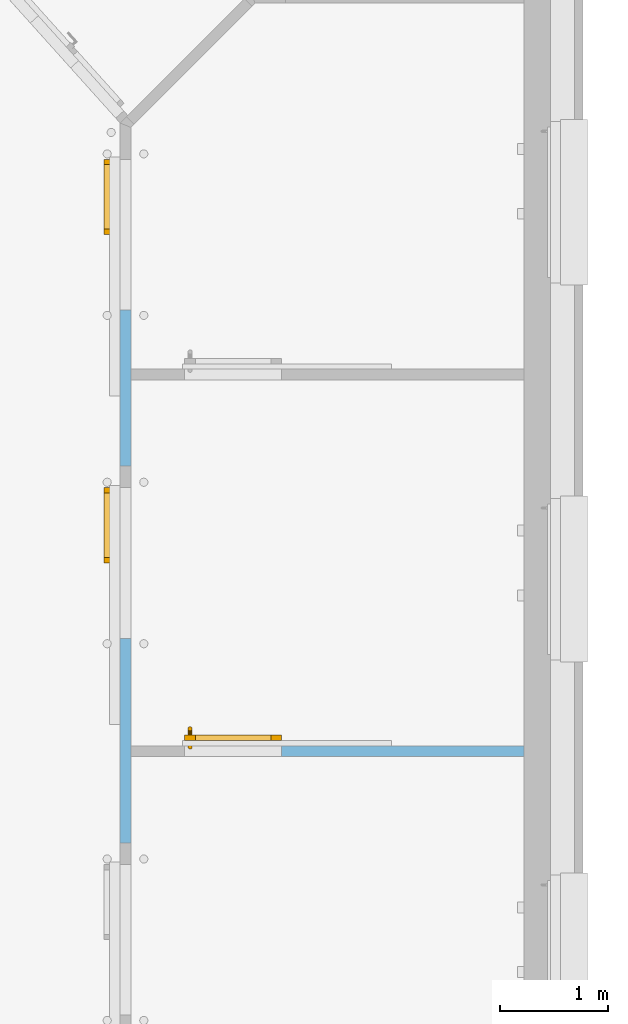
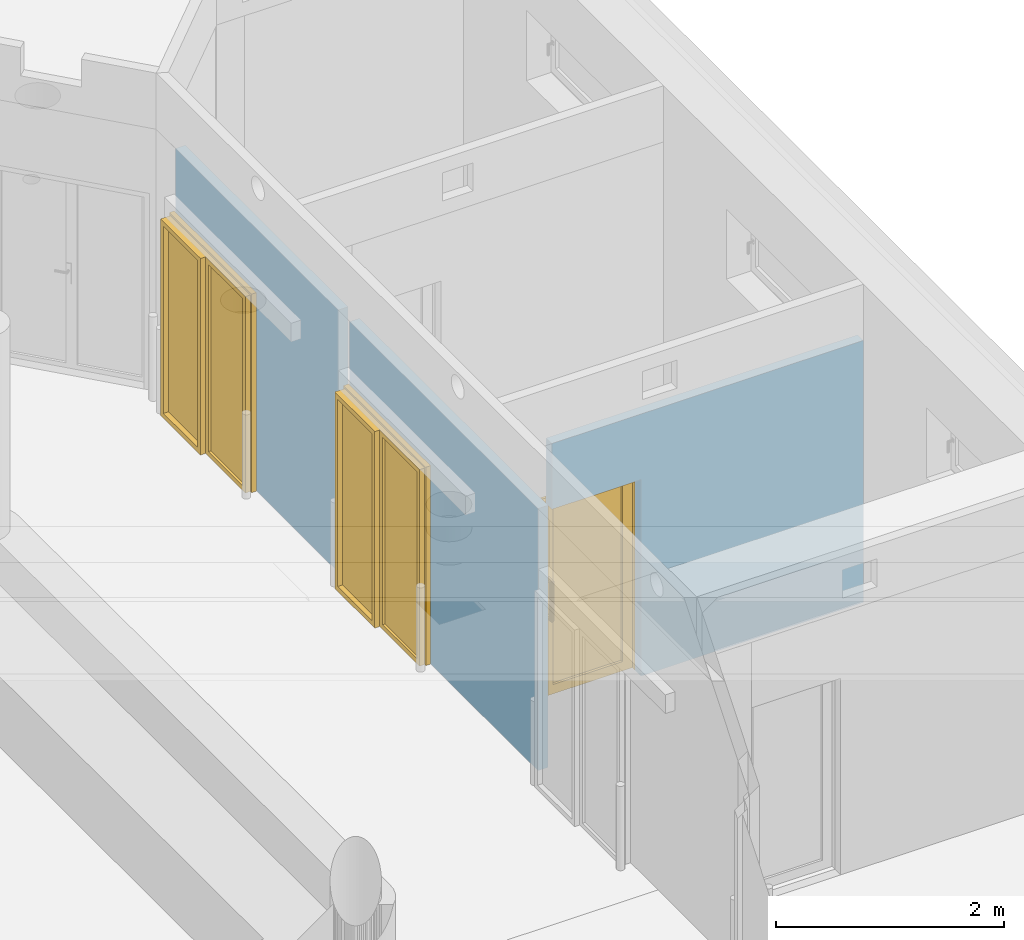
# One storey, part 115 of 140: 3 doors, 3 openings, plus 3 elements that do not belong to this part.
"""IFC4 building model written with IfcOpenShell, lengths in metres."""

import ifcopenshell
import ifcopenshell.guid

model = None  # the IFC model being written
_history = None  # IfcOwnerHistory: only IFC2X3 demands one
_inside = {}  # id of a spatial element -> (the spatial element, [elements in it])
_under = {}  # id of a project, library or spatial element -> (it, [spatial elements below it])
_declared = {}  # id of a project -> (the project, [libraries it declares])
_typed = {}  # id of a type object -> (the type object, [elements of that type])
_made_of = {}  # id of a material, layer set ... -> (it, [elements and type objects made of it])


def new_model(schema):
    """Start an empty IFC model of exactly this schema.

    Asked for "IFC4X3", IfcOpenShell would pick the latest addendum, in which some entities
    have other attributes; the version numbers below select the first issue.
    IFC2X3 requires an IfcOwnerHistory on every rooted entity: one is made here for all.
    """
    global model, _history
    if schema == "IFC4X3":
        model = ifcopenshell.file(schema_version=(4, 3, 0, 0))
    else:
        model = ifcopenshell.file(schema=schema)
    _inside.clear()
    _under.clear()
    _declared.clear()
    _typed.clear()
    _made_of.clear()
    _history = None
    if model.schema == "IFC2X3":
        org = make("IfcOrganization", Name="unknown")
        user = make(
            "IfcPersonAndOrganization",
            ThePerson=make("IfcPerson", FamilyName="unknown"),
            TheOrganization=org,
        )
        app = make(
            "IfcApplication",
            ApplicationDeveloper=org,
            Version="unknown",
            ApplicationFullName="unknown",
            ApplicationIdentifier="unknown",
        )
        _history = make(
            "IfcOwnerHistory",
            OwningUser=user,
            OwningApplication=app,
            ChangeAction="ADDED",
            CreationDate=0,
        )
    return model


def make(cls, **values):
    """One entity of the class cls with the attributes given. An attribute that is None is left unset."""
    return model.create_entity(
        cls, **{name: value for name, value in values.items() if value is not None}
    )


def entity(cls, *values):
    """Any entity or typed value of the class cls, its attributes in the order of the schema. None: left unset."""
    e = model.create_entity(cls)
    for i, value in enumerate(values):
        if value is not None:
            e[i] = value
    return e


def rooted(cls, **values):
    """An entity with a GlobalId (a new one), such as an element, a storey or a relation."""
    return make(cls, GlobalId=ifcopenshell.guid.new(), OwnerHistory=_history, **values)


def si_unit(unit_type, name, prefix=None):
    """IfcSIUnit, for example si_unit("LENGTHUNIT", "METRE", prefix="MILLI")."""
    return make("IfcSIUnit", UnitType=unit_type, Prefix=prefix, Name=name)


def converted_unit(unit_type, name, factor, base, dimensions=None, offset=None):
    """IfcConversionBasedUnit, such as the inch: factor (a typed value) times the base unit."""
    return make(
        "IfcConversionBasedUnit"
        if offset is None
        else "IfcConversionBasedUnitWithOffset",
        ConversionOffset=offset,
        Dimensions=None
        if dimensions is None
        else entity("IfcDimensionalExponents", *dimensions),
        UnitType=unit_type,
        Name=name,
        ConversionFactor=make(
            "IfcMeasureWithUnit", ValueComponent=factor, UnitComponent=base
        ),
    )


def derived_unit(unit_type, elements):
    """IfcDerivedUnit: a product of units, each with its exponent."""
    return make(
        "IfcDerivedUnit",
        Elements=[
            make("IfcDerivedUnitElement", Unit=unit, Exponent=power)
            for unit, power in elements
        ],
        UnitType=unit_type,
    )


def assignment(units):
    """IfcUnitAssignment: the units of a project."""
    return None if units is None else make("IfcUnitAssignment", Units=units)


def point(xyz):
    """IfcCartesianPoint."""
    return None if xyz is None else make("IfcCartesianPoint", Coordinates=xyz)


def direction(xyz):
    """IfcDirection."""
    return None if xyz is None else make("IfcDirection", DirectionRatios=xyz)


def frame(location, z_axis=None, x_axis=None):
    """IfcAxis2Placement3D, a coordinate frame: its origin and axes. An axis left out is left unset."""
    return make(
        "IfcAxis2Placement3D",
        Location=point(location),
        Axis=direction(z_axis),
        RefDirection=direction(x_axis),
    )


def frame_2d(location, x_axis=None):
    """IfcAxis2Placement2D, a coordinate frame in the plane: its origin and x axis."""
    return make(
        "IfcAxis2Placement2D", Location=point(location), RefDirection=direction(x_axis)
    )


def origin():
    """The frame at (0, 0, 0) with its axes left unset."""
    return frame((0.0, 0.0, 0.0))


def origin_with_axes():
    """The frame at (0, 0, 0) with the z axis (0, 0, 1) and the x axis (1, 0, 0) written out."""
    return frame((0.0, 0.0, 0.0), z_axis=(0.0, 0.0, 1.0), x_axis=(1.0, 0.0, 0.0))


def place(relative_to, where):
    """IfcLocalPlacement: puts the frame where relative to a parent placement (None: the world)."""
    return make(
        "IfcLocalPlacement", PlacementRelTo=relative_to, RelativePlacement=where
    )


def context(
    kind, dimensions, precision=None, world=None, true_north=None, identifier=None
):
    """IfcGeometricRepresentationContext, for example the 3D "Model" context."""
    return make(
        "IfcGeometricRepresentationContext",
        ContextIdentifier=identifier,
        ContextType=kind,
        CoordinateSpaceDimension=dimensions,
        Precision=precision,
        WorldCoordinateSystem=world,
        TrueNorth=true_north,
    )


def subcontext(parent, identifier, kind, view, scale=None):
    """IfcGeometricRepresentationSubContext, for example "Body" below "Model"."""
    return make(
        "IfcGeometricRepresentationSubContext",
        ContextIdentifier=identifier,
        ContextType=kind,
        ParentContext=parent,
        TargetScale=scale,
        TargetView=view,
    )


def project(units=None, contexts=None):
    """IfcProject with its units and contexts."""
    return rooted(
        "IfcProject",
        Name="project",
        RepresentationContexts=contexts,
        UnitsInContext=assignment(units),
    )


def spatial(cls, under=None, at=None, **own):
    """A site, building, storey or space (cls), placed at a placement, below another one or the project."""
    s = rooted(cls, ObjectPlacement=at, **own)
    if under is not None:
        _under.setdefault(under.id(), (under, []))[1].append(s)
    return s


def polyline(points):
    """IfcPolyline through the points."""
    return make("IfcPolyline", Points=[point(p) for p in points])


def profile(cls, at=None, kind="AREA", **sizes):
    """A parametric profile (cls). Its sizes go by their IFC names, for example OverallWidth=200.0."""
    return make(cls, ProfileType=kind, Position=at, **sizes)


def rectangle(**sizes):
    """IfcRectangleProfileDef."""
    return profile("IfcRectangleProfileDef", **sizes)


def outline(outer, holes=None, kind="AREA"):
    """IfcArbitraryClosedProfileDef: a profile drawn as a closed curve; with holes, ...WithVoids."""
    if holes is None:
        return make("IfcArbitraryClosedProfileDef", ProfileType=kind, OuterCurve=outer)
    return make(
        "IfcArbitraryProfileDefWithVoids",
        ProfileType=kind,
        OuterCurve=outer,
        InnerCurves=holes,
    )


def extrude(swept, where, along, depth):
    """IfcExtrudedAreaSolid: the profile swept, set in the frame where, extruded along a direction by depth."""
    return make(
        "IfcExtrudedAreaSolid",
        SweptArea=swept,
        Position=where,
        ExtrudedDirection=direction(along),
        Depth=depth,
    )


def faces_of(points, faces, orient=None, outer=None):
    """IfcFace entities. A face is a list of loops; a loop is a list of indices into points, from 0.

    orient and outer hold one flag for each loop. By default every Orientation is true, the
    first loop of a face is its IfcFaceOuterBound and the others are IfcFaceBound.
    """
    made = []
    for i, loops in enumerate(faces):
        bounds = []
        for j, loop in enumerate(loops):
            is_outer = j == 0 if outer is None else outer[i][j]
            bounds.append(
                make(
                    "IfcFaceOuterBound" if is_outer else "IfcFaceBound",
                    Bound=make("IfcPolyLoop", Polygon=[points[k] for k in loop]),
                    Orientation=True if orient is None else orient[i][j],
                )
            )
        made.append(make("IfcFace", Bounds=bounds))
    return made


def closed_shell(faces, orient=None, outer=None):
    """The faces of one IfcClosedShell. faceted_brep and surface_model build it on their shared points."""
    return ("IfcClosedShell", faces, orient, outer)


def open_shell(faces, orient=None, outer=None):
    """The faces of one IfcOpenShell. surface_model builds it on its shared points."""
    return ("IfcOpenShell", faces, orient, outer)


def surface_model(cls, points, shells):
    """IfcFaceBasedSurfaceModel or IfcShellBasedSurfaceModel (cls): surfaces that need not close."""
    shared = [point(p) for p in points]
    made = [make(c, CfsFaces=faces_of(shared, fs, o, b)) for c, fs, o, b in shells]
    if cls == "IfcFaceBasedSurfaceModel":
        return make(cls, FbsmFaces=made)
    return make(cls, SbsmBoundary=made)


def shape(context_of_items, identifier, shape_type, items):
    """IfcShapeRepresentation: the items that make up one representation, for example the "Body"."""
    return make(
        "IfcShapeRepresentation",
        ContextOfItems=context_of_items,
        RepresentationIdentifier=identifier,
        RepresentationType=shape_type,
        Items=items,
    )


def source(mapping_origin, context_of_items, identifier, shape_type, items):
    """IfcRepresentationMap: a shape defined once, which mapped items show again and again."""
    return make(
        "IfcRepresentationMap",
        MappingOrigin=mapping_origin,
        MappedRepresentation=shape(context_of_items, identifier, shape_type, items),
    )


def transform(
    local_origin,
    x_axis=None,
    y_axis=None,
    z_axis=None,
    scale=None,
    scale2=None,
    scale3=None,
    uniform=True,
):
    """IfcCartesianTransformationOperator3D, or its non-uniform kind. x_axis, y_axis, z_axis: its Axis1, 2, 3."""
    if uniform:
        return make(
            "IfcCartesianTransformationOperator3D",
            Axis1=direction(x_axis),
            Axis2=direction(y_axis),
            LocalOrigin=point(local_origin),
            Scale=scale,
            Axis3=direction(z_axis),
        )
    return make(
        "IfcCartesianTransformationOperator3DnonUniform",
        Axis1=direction(x_axis),
        Axis2=direction(y_axis),
        LocalOrigin=point(local_origin),
        Scale=scale,
        Axis3=direction(z_axis),
        Scale2=scale2,
        Scale3=scale3,
    )


def mapped(mapping_source, mapping_target):
    """IfcMappedItem: shows the shape of a source again, moved by a transform."""
    return make(
        "IfcMappedItem", MappingSource=mapping_source, MappingTarget=mapping_target
    )


def material(Name=None, Category=None):
    """IfcMaterial."""
    return make("IfcMaterial", Name=Name, Category=Category)


def layer(
    of_material, thickness, ventilated=None, Name=None, Category=None, Priority=None
):
    """IfcMaterialLayer: one layer of a wall or slab, of a material (None: an air gap)."""
    return make(
        "IfcMaterialLayer",
        Material=of_material,
        LayerThickness=thickness,
        IsVentilated=ventilated,
        Name=Name,
        Category=Category,
        Priority=Priority,
    )


def layer_set(layers, Name=None):
    """IfcMaterialLayerSet."""
    return make("IfcMaterialLayerSet", MaterialLayers=layers, LayerSetName=Name)


def layer_usage(for_layer_set, set_direction, sense, offset, extent=None):
    """IfcMaterialLayerSetUsage: how a layer set lies in its element."""
    return make(
        "IfcMaterialLayerSetUsage",
        ForLayerSet=for_layer_set,
        LayerSetDirection=set_direction,
        DirectionSense=sense,
        OffsetFromReferenceLine=offset,
        ReferenceExtent=extent,
    )


def made_of(thing, what):
    """Note that an element or type object is made of a material, layer set ...; save() writes the relation."""
    if what is not None:
        _made_of.setdefault(what.id(), (what, []))[1].append(thing)
    return thing


def type_object(cls, material=None, **own):
    """A type object (cls), such as IfcWallType, which elements share."""
    return made_of(rooted(cls, **own), material)


def element(
    cls,
    number,
    at=None,
    inside=None,
    cuts=None,
    type_object=None,
    material=None,
    context=None,
    identifier="Body",
    shape_type=None,
    held_by="IfcProductDefinitionShape",
    body=None,
    shapes=None,
    **own,
):
    """One element of the class cls, such as IfcWall. Its Tag is "e" and its number.

    at: its placement. inside: the storey or other place that contains it. cuts: it is an
    opening in that element (IfcRelVoidsElement). A single representation is given by context,
    identifier, shape_type and body (its items); several are given by shapes. held_by: the class
    of the entity that holds the representations. save() writes the other relations.
    """
    e = rooted(cls, Tag="e%d" % number, ObjectPlacement=at, **own)
    if body is not None:
        shapes = [shape(context, identifier, shape_type, body)]
    if shapes is not None:
        e.Representation = make(held_by, Representations=shapes)
    if inside is not None:
        _inside.setdefault(inside.id(), (inside, []))[1].append(e)
    if cuts is not None:
        rooted(
            "IfcRelVoidsElement", RelatingBuildingElement=cuts, RelatedOpeningElement=e
        )
    if type_object is not None:
        _typed.setdefault(type_object.id(), (type_object, []))[1].append(e)
    return made_of(e, material)


def fill(opening, filler):
    """IfcRelFillsElement: the door or window that sits in an opening."""
    return rooted(
        "IfcRelFillsElement",
        RelatingOpeningElement=opening,
        RelatedBuildingElement=filler,
    )


def aggregate(whole, parts):
    """IfcRelAggregates: a whole, such as a stair, and the parts it consists of."""
    return rooted("IfcRelAggregates", RelatingObject=whole, RelatedObjects=parts)


def save(model, path):
    """Write the relations noted so far, then the file.

    IfcRelAggregates (storeys below a building ...), IfcRelContainedInSpatialStructure (elements
    in a storey), IfcRelDefinesByType, IfcRelAssociatesMaterial and IfcRelDeclares: one each for
    every whole, place, type object, material and project.
    """
    for whole, parts in _under.values():
        aggregate(whole, parts)
    for where, things in _inside.values():
        rooted(
            "IfcRelContainedInSpatialStructure",
            RelatedElements=things,
            RelatingStructure=where,
        )
    for kind, things in _typed.values():
        rooted("IfcRelDefinesByType", RelatedObjects=things, RelatingType=kind)
    for what, things in _made_of.values():
        rooted("IfcRelAssociatesMaterial", RelatedObjects=things, RelatingMaterial=what)
    for by, libraries in _declared.values():
        rooted("IfcRelDeclares", RelatingContext=by, RelatedDefinitions=libraries)
    model.write(path)


model = new_model("IFC4")

# Units and contexts
model_context = context("Model", 3, precision=1e-05, world=origin())
body_context = subcontext(model_context, "Body", "Model", "MODEL_VIEW")
ifc_project = project(units=[si_unit("LENGTHUNIT", "METRE"), si_unit("AREAUNIT", "SQUARE_METRE"), si_unit("VOLUMEUNIT", "CUBIC_METRE"), si_unit("MASSUNIT", "GRAM", prefix="KILO"), converted_unit("PLANEANGLEUNIT", "DEGREE", entity("IfcPlaneAngleMeasure", 0.0174532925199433), si_unit("PLANEANGLEUNIT", "RADIAN"), dimensions=[0, 0, 0, 0, 0, 0, 0]), derived_unit("THERMALTRANSMITTANCEUNIT", [(si_unit("POWERUNIT", "WATT"), 1), (si_unit("THERMODYNAMICTEMPERATUREUNIT", "KELVIN"), -1), (si_unit("LENGTHUNIT", "METRE"), -2)]), derived_unit("VOLUMETRICFLOWRATEUNIT", [(si_unit("LENGTHUNIT", "METRE"), 3), (converted_unit("TIMEUNIT", "hour", entity("IfcTimeMeasure", 3600.0), si_unit("TIMEUNIT", "SECOND"), dimensions=[0, 0, 1, 0, 0, 0, 0]), -1), (si_unit("LENGTHUNIT", "METRE"), -1)])], contexts=[model_context])

# Site, building, storey
site_placement = place(None, origin())
site = spatial("IfcSite", under=ifc_project, at=site_placement, Name="3. ASŘ", CompositionType="ELEMENT")
building_placement = place(site_placement, origin())
building = spatial("IfcBuilding", under=site, at=building_placement, Name="Pavilon C", CompositionType="ELEMENT")
storey_placement = place(building_placement, origin())
storey = spatial("IfcBuildingStorey", under=building, at=storey_placement, Name="Půdorys 1.NP", CompositionType="ELEMENT", Elevation=0.0)

# Wall, opening, door
ifc_material_1 = material(Name="PROSKLENÁ PŘÍČKA DVOJITÁ")
ifc_layer_1 = layer(ifc_material_1, 0.1)
ifc_layer_set_1 = layer_set([ifc_layer_1])
ifc_layer_usage_1 = layer_usage(ifc_layer_set_1, "AXIS2", "POSITIVE", 0.0)
wall_1_placement = place(storey_placement, frame((59.9, 23.2, 0.0), z_axis=(0.0, 0.0, 1.0), x_axis=(0.0, 1.0, 0.0)))
wall_1 = element("IfcWall", 1, at=wall_1_placement, inside=storey, material=ifc_layer_usage_1, Name="PROSKLENÁ PŘÍČKA DVOJITÁ", context=body_context, shape_type="SweptSolid", body=[
    extrude(rectangle(XDim=2.85, YDim=0.1, at=frame_2d((1.425, 0.05), x_axis=(1.0, 0.0))), origin_with_axes(), (0.0, 0.0, 1.0), 2.8),
])
opening_1_placement = place(wall_1_placement, frame((2.85, 0.1, 0.0), z_axis=(0.0, -1.0, 0.0), x_axis=(0.0, 0.0, 1.0)))
opening_1 = element("IfcOpeningElement", 2, at=opening_1_placement, cuts=wall_1, Name="Dveřní otvor", ObjectType="Opening", context=body_context, shape_type="SweptSolid", body=[
    extrude(outline(polyline([(0.0, 1.4), (2.1, 1.4), (2.1, 0.0), (0.0, 0.0), (0.0, 1.4)])), origin_with_axes(), (0.0, 0.0, 1.0), 0.1),
])
door_type_1 = type_object("IfcDoorType", Name="I.DH19", OperationType="NOTDEFINED", ParameterTakesPrecedence=False, PredefinedType="DOOR")
shared_shape_1 = source(origin_with_axes(), body_context, "Body", "SurfaceModel", [
    surface_model("IfcShellBasedSurfaceModel", [(0.0, 0.0500000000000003, 2.12), (0.0, 0.05, 1.11492377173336e-17), (0.02, 0.05, 1.11492377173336e-17), (0.02, 0.0500000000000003, 2.12), (0.0, 0.0, 1.72724717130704e-17), (0.0, 2.62900812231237e-16, 2.12), (0.02, 2.62900812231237e-16, 2.12), (0.02, 0.0, 1.72724717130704e-17)], [closed_shell([[[0, 1, 2, 3]], [[4, 5, 6, 7]], [[1, 0, 5, 4]], [[2, 1, 4, 7]], [[3, 2, 7, 6]], [[0, 3, 6, 5]]], orient=[[False], [False], [False], [False], [False], [False]])]),
    surface_model("IfcShellBasedSurfaceModel", [(1.42, 0.0500000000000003, 2.12), (1.42, 0.05, 1.11492377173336e-17), (1.44, 0.05, 1.11492377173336e-17), (1.44, 0.0500000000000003, 2.12), (1.42, 0.0, 1.72724717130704e-17), (1.42, 2.62900812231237e-16, 2.12), (1.44, 2.62900812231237e-16, 2.12), (1.44, 0.0, 1.72724717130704e-17)], [closed_shell([[[0, 1, 2, 3]], [[4, 5, 6, 7]], [[1, 0, 5, 4]], [[2, 1, 4, 7]], [[3, 2, 7, 6]], [[0, 3, 6, 5]]], orient=[[False], [False], [False], [False], [False], [False]])]),
    surface_model("IfcShellBasedSurfaceModel", [(0.02, 0.0500000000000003, 2.12), (0.02, 0.0500000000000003, 2.1), (1.42, 0.0500000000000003, 2.1), (1.42, 0.0500000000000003, 2.12), (0.02, 2.55795384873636e-16, 2.1), (0.02, 2.55795384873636e-16, 2.12), (1.42, 2.55795384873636e-16, 2.12), (1.42, 2.55795384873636e-16, 2.1)], [closed_shell([[[0, 1, 2, 3]], [[4, 5, 6, 7]], [[1, 0, 5, 4]], [[2, 1, 4, 7]], [[3, 2, 7, 6]], [[0, 3, 6, 5]]], orient=[[False], [False], [False], [False], [False], [False]])]),
    surface_model("IfcShellBasedSurfaceModel", [(0.02, 0.1, 2.1), (0.02, 0.1, 5.02600372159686e-18), (0.07, 0.1, 5.02600372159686e-18), (0.07, 0.1, 2.1), (0.02, 0.05, 1.11492377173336e-17), (0.02, 0.0500000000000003, 2.1), (0.07, 0.0500000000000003, 2.1), (0.07, 0.05, 1.11492377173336e-17)], [closed_shell([[[0, 1, 2, 3]], [[4, 5, 6, 7]], [[1, 0, 5, 4]], [[2, 1, 4, 7]], [[3, 2, 7, 6]], [[0, 3, 6, 5]]], orient=[[False], [False], [False], [False], [False], [False]])]),
    surface_model("IfcShellBasedSurfaceModel", [(0.6695, 0.1, 2.1), (0.6695, 0.1, 5.02600372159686e-18), (0.7195, 0.1, 5.02600372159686e-18), (0.7195, 0.1, 2.1), (0.6695, 0.05, 1.11492377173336e-17), (0.6695, 0.0500000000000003, 2.1), (0.7195, 0.0500000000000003, 2.1), (0.7195, 0.05, 1.11492377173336e-17)], [closed_shell([[[0, 1, 2, 3]], [[4, 5, 6, 7]], [[1, 0, 5, 4]], [[2, 1, 4, 7]], [[3, 2, 7, 6]], [[0, 3, 6, 5]]], orient=[[False], [False], [False], [False], [False], [False]])]),
    surface_model("IfcShellBasedSurfaceModel", [(0.07, 0.1, 0.05), (0.07, 0.1, 5.02600372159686e-18), (0.6695, 0.1, 5.02600372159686e-18), (0.6695, 0.1, 0.05), (0.07, 0.05, 1.11492377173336e-17), (0.07, 0.05, 0.05), (0.6695, 0.05, 0.05), (0.6695, 0.05, 1.11492377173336e-17)], [closed_shell([[[0, 1, 2, 3]], [[4, 5, 6, 7]], [[1, 0, 5, 4]], [[2, 1, 4, 7]], [[3, 2, 7, 6]], [[0, 3, 6, 5]]], orient=[[False], [False], [False], [False], [False], [False]])]),
    surface_model("IfcShellBasedSurfaceModel", [(0.07, 0.1, 2.1), (0.07, 0.1, 2.05), (0.6695, 0.1, 2.05), (0.6695, 0.1, 2.1), (0.07, 0.0500000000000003, 2.05), (0.07, 0.0500000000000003, 2.1), (0.6695, 0.0500000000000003, 2.1), (0.6695, 0.0500000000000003, 2.05)], [closed_shell([[[0, 1, 2, 3]], [[4, 5, 6, 7]], [[1, 0, 5, 4]], [[2, 1, 4, 7]], [[3, 2, 7, 6]], [[0, 3, 6, 5]]], orient=[[False], [False], [False], [False], [False], [False]])]),
    surface_model("IfcShellBasedSurfaceModel", [(0.7205, 0.15, 2.1), (0.7205, 0.15, -1.09723027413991e-18), (0.7705, 0.15, -1.09723027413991e-18), (0.7705, 0.15, 2.1), (0.7205, 0.05, 1.11492377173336e-17), (0.7205, 0.0500000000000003, 2.1), (0.7705, 0.0500000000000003, 2.1), (0.7705, 0.05, 1.11492377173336e-17)], [closed_shell([[[0, 1, 2, 3]], [[4, 5, 6, 7]], [[1, 0, 5, 4]], [[2, 1, 4, 7]], [[3, 2, 7, 6]], [[0, 3, 6, 5]]], orient=[[False], [False], [False], [False], [False], [False]])]),
    surface_model("IfcShellBasedSurfaceModel", [(1.37, 0.15, 2.1), (1.37, 0.15, -1.09723027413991e-18), (1.42, 0.15, -1.09723027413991e-18), (1.42, 0.15, 2.1), (1.37, 0.05, 1.11492377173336e-17), (1.37, 0.0500000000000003, 2.1), (1.42, 0.0500000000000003, 2.1), (1.42, 0.05, 1.11492377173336e-17)], [closed_shell([[[0, 1, 2, 3]], [[4, 5, 6, 7]], [[1, 0, 5, 4]], [[2, 1, 4, 7]], [[3, 2, 7, 6]], [[0, 3, 6, 5]]], orient=[[False], [False], [False], [False], [False], [False]])]),
    surface_model("IfcShellBasedSurfaceModel", [(0.7705, 0.15, 0.05), (0.7705, 0.15, -1.09723027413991e-18), (1.37, 0.15, -1.09723027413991e-18), (1.37, 0.15, 0.05), (0.7705, 0.05, 1.11492377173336e-17), (0.7705, 0.05, 0.05), (1.37, 0.05, 0.05), (1.37, 0.05, 1.11492377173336e-17)], [closed_shell([[[0, 1, 2, 3]], [[4, 5, 6, 7]], [[1, 0, 5, 4]], [[2, 1, 4, 7]], [[3, 2, 7, 6]], [[0, 3, 6, 5]]], orient=[[False], [False], [False], [False], [False], [False]])]),
    surface_model("IfcShellBasedSurfaceModel", [(0.7705, 0.15, 2.1), (0.7705, 0.15, 2.05), (1.37, 0.15, 2.05), (1.37, 0.15, 2.1), (0.7705, 0.0500000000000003, 2.05), (0.7705, 0.0500000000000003, 2.1), (1.37, 0.0500000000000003, 2.1), (1.37, 0.0500000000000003, 2.05)], [closed_shell([[[0, 1, 2, 3]], [[4, 5, 6, 7]], [[1, 0, 5, 4]], [[2, 1, 4, 7]], [[3, 2, 7, 6]], [[0, 3, 6, 5]]], orient=[[False], [False], [False], [False], [False], [False]])]),
    surface_model("IfcShellBasedSurfaceModel", [(0.07, 0.075, 0.05), (0.6695, 0.075, 0.05), (0.6695, 0.0750000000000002, 2.05), (0.07, 0.0750000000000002, 2.05)], [open_shell([[[0, 1, 2, 3]]], orient=[[False]])]),
    surface_model("IfcShellBasedSurfaceModel", [(0.7705, 0.1, 0.05), (1.37, 0.1, 0.05), (1.37, 0.1, 2.05), (0.7705, 0.1, 2.05)], [open_shell([[[0, 1, 2, 3]]], orient=[[False]])]),
])
door_1_placement = place(opening_1_placement, frame((0.0, 1.42000000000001, -1.45519152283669e-14), z_axis=(1.0, 0.0, 0.0), x_axis=(0.0, -1.0, 1.22464679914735e-16)))
door_1 = element("IfcDoor", 3, at=door_1_placement, inside=storey, type_object=door_type_1, Name="I.DH19", OverallHeight=2.14, OverallWidth=1.48, context=body_context, shape_type="MappedRepresentation", body=[
    mapped(shared_shape_1, transform((0.0, 0.0, 0.0), x_axis=(1.0, 0.0, 0.0), y_axis=(0.0, 1.0, 0.0), z_axis=(0.0, 0.0, 1.0), scale=1.0)),
])
fill(opening_1, door_1)

ifc_material_2 = material(Name="PROSKLENÁ PŘÍČKA DVOJITÁ")
ifc_layer_2 = layer(ifc_material_2, 0.1)
ifc_layer_set_2 = layer_set([ifc_layer_2])
ifc_layer_usage_2 = layer_usage(ifc_layer_set_2, "AXIS2", "POSITIVE", 0.0)
wall_2_placement = place(storey_placement, frame((59.8, 23.0, 0.0), z_axis=(0.0, 0.0, 1.0), x_axis=(0.0, -1.0, 0.0)))
wall_2 = element("IfcWall", 4, at=wall_2_placement, inside=storey, material=ifc_layer_usage_2, Name="PROSKLENÁ PŘÍČKA DVOJITÁ", context=body_context, shape_type="SweptSolid", body=[
    extrude(rectangle(XDim=3.30000000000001, YDim=0.1, at=frame_2d((1.65, 0.05), x_axis=(1.0, 0.0))), origin_with_axes(), (0.0, 0.0, 1.0), 2.8),
])
opening_2_placement = place(wall_2_placement, frame((0.0, 0.0, 0.0), z_axis=(0.0, 1.0, 0.0), x_axis=(0.0, 0.0, 1.0)))
opening_2 = element("IfcOpeningElement", 5, at=opening_2_placement, cuts=wall_2, Name="Dveřní otvor", ObjectType="Opening", context=body_context, shape_type="SweptSolid", body=[
    extrude(outline(polyline([(0.0, 1.4), (2.1, 1.4), (2.1, 0.0), (0.0, 0.0), (0.0, 1.4)])), origin_with_axes(), (0.0, 0.0, 1.0), 0.1),
])
door_type_2 = type_object("IfcDoorType", Name="I.DH18", OperationType="NOTDEFINED", ParameterTakesPrecedence=False, PredefinedType="DOOR")
shared_shape_2 = source(origin_with_axes(), body_context, "Body", "SurfaceModel", [
    surface_model("IfcShellBasedSurfaceModel", [(0.0, 0.0500000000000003, 2.12), (0.0, 0.05, 1.11492377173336e-17), (0.02, 0.05, 1.11492377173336e-17), (0.02, 0.0500000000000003, 2.12), (0.0, 0.0, 1.72724717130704e-17), (0.0, 2.62900812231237e-16, 2.12), (0.02, 2.62900812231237e-16, 2.12), (0.02, 0.0, 1.72724717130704e-17)], [closed_shell([[[0, 1, 2, 3]], [[4, 5, 6, 7]], [[1, 0, 5, 4]], [[2, 1, 4, 7]], [[3, 2, 7, 6]], [[0, 3, 6, 5]]], orient=[[False], [False], [False], [False], [False], [False]])]),
    surface_model("IfcShellBasedSurfaceModel", [(1.42, 0.0500000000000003, 2.12), (1.42, 0.05, 1.11492377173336e-17), (1.44, 0.05, 1.11492377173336e-17), (1.44, 0.0500000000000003, 2.12), (1.42, 0.0, 1.72724717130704e-17), (1.42, 2.62900812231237e-16, 2.12), (1.44, 2.62900812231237e-16, 2.12), (1.44, 0.0, 1.72724717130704e-17)], [closed_shell([[[0, 1, 2, 3]], [[4, 5, 6, 7]], [[1, 0, 5, 4]], [[2, 1, 4, 7]], [[3, 2, 7, 6]], [[0, 3, 6, 5]]], orient=[[False], [False], [False], [False], [False], [False]])]),
    surface_model("IfcShellBasedSurfaceModel", [(0.02, 0.0500000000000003, 2.12), (0.02, 0.0500000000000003, 2.1), (1.42, 0.0500000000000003, 2.1), (1.42, 0.0500000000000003, 2.12), (0.02, 2.55795384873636e-16, 2.1), (0.02, 2.55795384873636e-16, 2.12), (1.42, 2.55795384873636e-16, 2.12), (1.42, 2.55795384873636e-16, 2.1)], [closed_shell([[[0, 1, 2, 3]], [[4, 5, 6, 7]], [[1, 0, 5, 4]], [[2, 1, 4, 7]], [[3, 2, 7, 6]], [[0, 3, 6, 5]]], orient=[[False], [False], [False], [False], [False], [False]])]),
    surface_model("IfcShellBasedSurfaceModel", [(0.02, 0.1, 2.1), (0.02, 0.1, 5.02600372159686e-18), (0.07, 0.1, 5.02600372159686e-18), (0.07, 0.1, 2.1), (0.02, 0.05, 1.11492377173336e-17), (0.02, 0.0500000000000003, 2.1), (0.07, 0.0500000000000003, 2.1), (0.07, 0.05, 1.11492377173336e-17)], [closed_shell([[[0, 1, 2, 3]], [[4, 5, 6, 7]], [[1, 0, 5, 4]], [[2, 1, 4, 7]], [[3, 2, 7, 6]], [[0, 3, 6, 5]]], orient=[[False], [False], [False], [False], [False], [False]])]),
    surface_model("IfcShellBasedSurfaceModel", [(0.6695, 0.1, 2.1), (0.6695, 0.1, 5.02600372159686e-18), (0.7195, 0.1, 5.02600372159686e-18), (0.7195, 0.1, 2.1), (0.6695, 0.05, 1.11492377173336e-17), (0.6695, 0.0500000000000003, 2.1), (0.7195, 0.0500000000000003, 2.1), (0.7195, 0.05, 1.11492377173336e-17)], [closed_shell([[[0, 1, 2, 3]], [[4, 5, 6, 7]], [[1, 0, 5, 4]], [[2, 1, 4, 7]], [[3, 2, 7, 6]], [[0, 3, 6, 5]]], orient=[[False], [False], [False], [False], [False], [False]])]),
    surface_model("IfcShellBasedSurfaceModel", [(0.07, 0.1, 0.05), (0.07, 0.1, 5.02600372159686e-18), (0.6695, 0.1, 5.02600372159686e-18), (0.6695, 0.1, 0.05), (0.07, 0.05, 1.11492377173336e-17), (0.07, 0.05, 0.05), (0.6695, 0.05, 0.05), (0.6695, 0.05, 1.11492377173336e-17)], [closed_shell([[[0, 1, 2, 3]], [[4, 5, 6, 7]], [[1, 0, 5, 4]], [[2, 1, 4, 7]], [[3, 2, 7, 6]], [[0, 3, 6, 5]]], orient=[[False], [False], [False], [False], [False], [False]])]),
    surface_model("IfcShellBasedSurfaceModel", [(0.07, 0.1, 2.1), (0.07, 0.1, 2.05), (0.6695, 0.1, 2.05), (0.6695, 0.1, 2.1), (0.07, 0.0500000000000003, 2.05), (0.07, 0.0500000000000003, 2.1), (0.6695, 0.0500000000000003, 2.1), (0.6695, 0.0500000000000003, 2.05)], [closed_shell([[[0, 1, 2, 3]], [[4, 5, 6, 7]], [[1, 0, 5, 4]], [[2, 1, 4, 7]], [[3, 2, 7, 6]], [[0, 3, 6, 5]]], orient=[[False], [False], [False], [False], [False], [False]])]),
    surface_model("IfcShellBasedSurfaceModel", [(0.7205, 0.15, 2.1), (0.7205, 0.15, -1.09723027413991e-18), (0.7705, 0.15, -1.09723027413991e-18), (0.7705, 0.15, 2.1), (0.7205, 0.05, 1.11492377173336e-17), (0.7205, 0.0500000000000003, 2.1), (0.7705, 0.0500000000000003, 2.1), (0.7705, 0.05, 1.11492377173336e-17)], [closed_shell([[[0, 1, 2, 3]], [[4, 5, 6, 7]], [[1, 0, 5, 4]], [[2, 1, 4, 7]], [[3, 2, 7, 6]], [[0, 3, 6, 5]]], orient=[[False], [False], [False], [False], [False], [False]])]),
    surface_model("IfcShellBasedSurfaceModel", [(1.37, 0.15, 2.1), (1.37, 0.15, -1.09723027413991e-18), (1.42, 0.15, -1.09723027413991e-18), (1.42, 0.15, 2.1), (1.37, 0.05, 1.11492377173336e-17), (1.37, 0.0500000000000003, 2.1), (1.42, 0.0500000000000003, 2.1), (1.42, 0.05, 1.11492377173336e-17)], [closed_shell([[[0, 1, 2, 3]], [[4, 5, 6, 7]], [[1, 0, 5, 4]], [[2, 1, 4, 7]], [[3, 2, 7, 6]], [[0, 3, 6, 5]]], orient=[[False], [False], [False], [False], [False], [False]])]),
    surface_model("IfcShellBasedSurfaceModel", [(0.7705, 0.15, 0.05), (0.7705, 0.15, -1.09723027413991e-18), (1.37, 0.15, -1.09723027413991e-18), (1.37, 0.15, 0.05), (0.7705, 0.05, 1.11492377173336e-17), (0.7705, 0.05, 0.05), (1.37, 0.05, 0.05), (1.37, 0.05, 1.11492377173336e-17)], [closed_shell([[[0, 1, 2, 3]], [[4, 5, 6, 7]], [[1, 0, 5, 4]], [[2, 1, 4, 7]], [[3, 2, 7, 6]], [[0, 3, 6, 5]]], orient=[[False], [False], [False], [False], [False], [False]])]),
    surface_model("IfcShellBasedSurfaceModel", [(0.7705, 0.15, 2.1), (0.7705, 0.15, 2.05), (1.37, 0.15, 2.05), (1.37, 0.15, 2.1), (0.7705, 0.0500000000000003, 2.05), (0.7705, 0.0500000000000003, 2.1), (1.37, 0.0500000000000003, 2.1), (1.37, 0.0500000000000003, 2.05)], [closed_shell([[[0, 1, 2, 3]], [[4, 5, 6, 7]], [[1, 0, 5, 4]], [[2, 1, 4, 7]], [[3, 2, 7, 6]], [[0, 3, 6, 5]]], orient=[[False], [False], [False], [False], [False], [False]])]),
    surface_model("IfcShellBasedSurfaceModel", [(0.07, 0.075, 0.05), (0.6695, 0.075, 0.05), (0.6695, 0.0750000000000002, 2.05), (0.07, 0.0750000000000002, 2.05)], [open_shell([[[0, 1, 2, 3]]], orient=[[False]])]),
    surface_model("IfcShellBasedSurfaceModel", [(0.7705, 0.1, 0.05), (1.37, 0.1, 0.05), (1.37, 0.1, 2.05), (0.7705, 0.1, 2.05)], [open_shell([[[0, 1, 2, 3]]], orient=[[False]])]),
])
door_2_placement = place(opening_2_placement, frame((0.0, 1.42000000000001, -1.45519152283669e-14), z_axis=(1.0, 0.0, 0.0), x_axis=(0.0, -1.0, 1.22464679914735e-16)))
door_2 = element("IfcDoor", 6, at=door_2_placement, inside=storey, type_object=door_type_2, Name="I.DH18", OverallHeight=2.14, OverallWidth=1.48, context=body_context, shape_type="MappedRepresentation", body=[
    mapped(shared_shape_2, transform((0.0, 0.0, 0.0), x_axis=(1.0, 0.0, 0.0), y_axis=(0.0, 1.0, 0.0), z_axis=(0.0, 0.0, 1.0), scale=1.0)),
])
fill(opening_2, door_2)

ifc_material_3 = material(Name="PROSKLENÁ PŘÍČKA DVOJITÁ")
ifc_layer_3 = layer(ifc_material_3, 0.1)
ifc_layer_set_3 = layer_set([ifc_layer_3])
ifc_layer_usage_3 = layer_usage(ifc_layer_set_3, "AXIS2", "POSITIVE", 0.0)
wall_3_placement = place(storey_placement, frame((60.4, 20.5, 0.0)))
wall_3 = element("IfcWall", 7, at=wall_3_placement, inside=storey, material=ifc_layer_usage_3, Name="PROSKLENÁ PŘÍČKA DVOJITÁ", context=body_context, shape_type="SweptSolid", body=[
    extrude(rectangle(XDim=3.15, YDim=0.1, at=frame_2d((1.575, 0.05), x_axis=(1.0, 0.0))), origin_with_axes(), (0.0, 0.0, 1.0), 2.8),
])
opening_3_placement = place(wall_3_placement, frame((0.0, 0.0, 0.0), z_axis=(0.0, 1.0, 0.0), x_axis=(0.0, 0.0, 1.0)))
opening_3 = element("IfcOpeningElement", 8, at=opening_3_placement, cuts=wall_3, Name="Dveřní otvor", ObjectType="Opening", context=body_context, shape_type="SweptSolid", body=[
    extrude(outline(polyline([(0.0, 0.9), (2.1, 0.9), (2.1, 0.0), (0.0, 0.0), (0.0, 0.9)])), origin_with_axes(), (0.0, 0.0, 1.0), 0.1),
])
door_type_3 = type_object("IfcDoorType", Name="I.DHP03", OperationType="NOTDEFINED", ParameterTakesPrecedence=False, PredefinedType="DOOR")
shared_shape_3 = source(origin_with_axes(), body_context, "Body", "SurfaceModel", [
    surface_model("IfcShellBasedSurfaceModel", [(0.0, 0.0800000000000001, 2.12), (0.0, 0.0799999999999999, 1.11492377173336e-17), (0.02, 0.0799999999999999, 1.11492377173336e-17), (0.02, 0.0800000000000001, 2.12), (0.0, 0.0299999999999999, 1.72724717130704e-17), (0.0, 0.0300000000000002, 2.12), (0.02, 0.0300000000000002, 2.12), (0.02, 0.0299999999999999, 1.72724717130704e-17)], [closed_shell([[[0, 1, 2, 3]], [[4, 5, 6, 7]], [[1, 0, 5, 4]], [[2, 1, 4, 7]], [[3, 2, 7, 6]], [[0, 3, 6, 5]]], orient=[[False], [False], [False], [False], [False], [False]])]),
    surface_model("IfcShellBasedSurfaceModel", [(0.92, 0.0800000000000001, 2.12), (0.92, 0.0799999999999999, 1.11492377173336e-17), (0.94, 0.0799999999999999, 1.11492377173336e-17), (0.94, 0.0800000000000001, 2.12), (0.92, 0.0299999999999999, 1.72724717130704e-17), (0.92, 0.0300000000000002, 2.12), (0.94, 0.0300000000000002, 2.12), (0.94, 0.0299999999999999, 1.72724717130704e-17)], [closed_shell([[[0, 1, 2, 3]], [[4, 5, 6, 7]], [[1, 0, 5, 4]], [[2, 1, 4, 7]], [[3, 2, 7, 6]], [[0, 3, 6, 5]]], orient=[[False], [False], [False], [False], [False], [False]])]),
    surface_model("IfcShellBasedSurfaceModel", [(0.02, 0.0800000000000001, 2.12), (0.02, 0.0800000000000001, 2.1), (0.92, 0.0800000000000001, 2.1), (0.92, 0.0800000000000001, 2.12), (0.02, 0.0300000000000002, 2.1), (0.02, 0.0300000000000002, 2.12), (0.92, 0.0300000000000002, 2.12), (0.92, 0.0300000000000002, 2.1)], [closed_shell([[[0, 1, 2, 3]], [[4, 5, 6, 7]], [[1, 0, 5, 4]], [[2, 1, 4, 7]], [[3, 2, 7, 6]], [[0, 3, 6, 5]]], orient=[[False], [False], [False], [False], [False], [False]])]),
    surface_model("IfcShellBasedSurfaceModel", [(0.02, 0.13, 2.1), (0.02, 0.13, 5.02600372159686e-18), (0.12, 0.13, 5.02600372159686e-18), (0.12, 0.13, 2.1), (0.02, 0.0799999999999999, 1.11492377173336e-17), (0.02, 0.0800000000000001, 2.1), (0.12, 0.0800000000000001, 2.1), (0.12, 0.0799999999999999, 1.11492377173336e-17)], [closed_shell([[[0, 1, 2, 3]], [[4, 5, 6, 7]], [[1, 0, 5, 4]], [[2, 1, 4, 7]], [[3, 2, 7, 6]], [[0, 3, 6, 5]]], orient=[[False], [False], [False], [False], [False], [False]])]),
    surface_model("IfcShellBasedSurfaceModel", [(0.82, 0.13, 2.1), (0.82, 0.13, 5.02600372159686e-18), (0.92, 0.13, 5.02600372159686e-18), (0.92, 0.13, 2.1), (0.82, 0.0799999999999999, 1.11492377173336e-17), (0.82, 0.0800000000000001, 2.1), (0.92, 0.0800000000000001, 2.1), (0.92, 0.0799999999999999, 1.11492377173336e-17)], [closed_shell([[[0, 1, 2, 3]], [[4, 5, 6, 7]], [[1, 0, 5, 4]], [[2, 1, 4, 7]], [[3, 2, 7, 6]], [[0, 3, 6, 5]]], orient=[[False], [False], [False], [False], [False], [False]])]),
    surface_model("IfcShellBasedSurfaceModel", [(0.12, 0.13, 0.1), (0.12, 0.13, 5.02600372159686e-18), (0.82, 0.13, 5.02600372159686e-18), (0.82, 0.13, 0.1), (0.12, 0.0799999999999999, 1.11492377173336e-17), (0.12, 0.0799999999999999, 0.1), (0.82, 0.0799999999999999, 0.1), (0.82, 0.0799999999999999, 1.11492377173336e-17)], [closed_shell([[[0, 1, 2, 3]], [[4, 5, 6, 7]], [[1, 0, 5, 4]], [[2, 1, 4, 7]], [[3, 2, 7, 6]], [[0, 3, 6, 5]]], orient=[[False], [False], [False], [False], [False], [False]])]),
    surface_model("IfcShellBasedSurfaceModel", [(0.12, 0.13, 2.1), (0.12, 0.13, 2.0), (0.82, 0.13, 2.0), (0.82, 0.13, 2.1), (0.12, 0.0800000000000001, 2.0), (0.12, 0.0800000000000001, 2.1), (0.82, 0.0800000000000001, 2.1), (0.82, 0.0800000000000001, 2.0)], [closed_shell([[[0, 1, 2, 3]], [[4, 5, 6, 7]], [[1, 0, 5, 4]], [[2, 1, 4, 7]], [[3, 2, 7, 6]], [[0, 3, 6, 5]]], orient=[[False], [False], [False], [False], [False], [False]])]),
    surface_model("IfcShellBasedSurfaceModel", [(0.89, 0.08, 1.25), (0.887320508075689, 0.08, 1.26), (0.88, 0.08, 1.26732050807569), (0.87, 0.08, 1.27), (0.86, 0.08, 1.26732050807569), (0.852679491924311, 0.08, 1.26), (0.85, 0.08, 1.25), (0.852679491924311, 0.08, 1.24), (0.86, 0.08, 1.23267949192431), (0.87, 0.08, 1.23), (0.88, 0.08, 1.23267949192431), (0.887320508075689, 0.08, 1.24), (0.89, 0.0200000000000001, 1.25), (0.887320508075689, 0.0100000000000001, 1.26), (0.88, 0.00267949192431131, 1.26732050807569), (0.87, 7.105427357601e-17, 1.27), (0.86, 0.00267949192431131, 1.26732050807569), (0.852679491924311, 0.0100000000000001, 1.26), (0.85, 0.0200000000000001, 1.25), (0.852679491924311, 0.0300000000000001, 1.24), (0.86, 0.0373205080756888, 1.23267949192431), (0.87, 0.0400000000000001, 1.23), (0.88, 0.0373205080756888, 1.23267949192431), (0.887320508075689, 0.0300000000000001, 1.24), (0.89, 0.02, 0.85), (0.887320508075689, 0.01, 0.84), (0.88, 0.00267949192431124, 0.832679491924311), (0.87, 0.0, 0.83), (0.86, 0.00267949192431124, 0.832679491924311), (0.852679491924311, 0.01, 0.84), (0.85, 0.02, 0.85), (0.852679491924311, 0.03, 0.86), (0.86, 0.0373205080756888, 0.867320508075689), (0.87, 0.04, 0.87), (0.88, 0.0373205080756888, 0.867320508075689), (0.887320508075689, 0.03, 0.86), (0.89, 0.08, 0.85), (0.887320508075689, 0.08, 0.84), (0.88, 0.08, 0.832679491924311), (0.87, 0.08, 0.83), (0.86, 0.08, 0.832679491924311), (0.852679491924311, 0.08, 0.84), (0.85, 0.08, 0.85), (0.852679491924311, 0.08, 0.86), (0.86, 0.08, 0.867320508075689), (0.87, 0.08, 0.87), (0.88, 0.08, 0.867320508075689), (0.887320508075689, 0.08, 0.86)], [open_shell([[[0, 1, 2, 3, 4, 5, 6, 7, 8, 9, 10, 11]], [[0, 12, 13, 1]], [[1, 13, 14, 2]], [[2, 14, 15, 3]], [[3, 15, 16, 4]], [[4, 16, 17, 5]], [[5, 17, 18, 6]], [[6, 18, 19, 7]], [[7, 19, 20, 8]], [[8, 20, 21, 9]], [[9, 21, 22, 10]], [[10, 22, 23, 11]], [[11, 23, 12, 0]], [[12, 24, 25, 13]], [[13, 25, 26, 14]], [[14, 26, 27, 15]], [[15, 27, 28, 16]], [[16, 28, 29, 17]], [[17, 29, 30, 18]], [[18, 30, 31, 19]], [[19, 31, 32, 20]], [[20, 32, 33, 21]], [[21, 33, 34, 22]], [[22, 34, 35, 23]], [[23, 35, 24, 12]], [[24, 36, 37, 25]], [[25, 37, 38, 26]], [[26, 38, 39, 27]], [[27, 39, 40, 28]], [[28, 40, 41, 29]], [[29, 41, 42, 30]], [[30, 42, 43, 31]], [[31, 43, 44, 32]], [[32, 44, 45, 33]], [[33, 45, 46, 34]], [[34, 46, 47, 35]], [[35, 47, 36, 24]]], orient=[[False], [False], [False], [False], [False], [False], [False], [False], [False], [False], [False], [False], [False], [False], [False], [False], [False], [False], [False], [False], [False], [False], [False], [False], [False], [False], [False], [False], [False], [False], [False], [False], [False], [False], [False], [False], [False]])]),
    surface_model("IfcShellBasedSurfaceModel", [(0.89, 0.13, 1.25), (0.887320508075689, 0.13, 1.24), (0.88, 0.13, 1.23267949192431), (0.87, 0.13, 1.23), (0.86, 0.13, 1.23267949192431), (0.852679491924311, 0.13, 1.24), (0.85, 0.13, 1.25), (0.852679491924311, 0.13, 1.26), (0.86, 0.13, 1.26732050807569), (0.87, 0.13, 1.27), (0.88, 0.13, 1.26732050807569), (0.887320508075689, 0.13, 1.26), (0.887320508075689, 0.2, 1.26), (0.89, 0.19, 1.25), (0.88, 0.207320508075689, 1.26732050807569), (0.87, 0.21, 1.27), (0.86, 0.207320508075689, 1.26732050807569), (0.852679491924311, 0.2, 1.26), (0.85, 0.19, 1.25), (0.852679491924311, 0.18, 1.24), (0.86, 0.172679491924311, 1.23267949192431), (0.87, 0.17, 1.23), (0.88, 0.172679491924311, 1.23267949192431), (0.887320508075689, 0.18, 1.24), (0.887320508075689, 0.2, 0.84), (0.89, 0.19, 0.85), (0.88, 0.207320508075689, 0.832679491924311), (0.87, 0.21, 0.83), (0.86, 0.207320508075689, 0.832679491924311), (0.852679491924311, 0.2, 0.84), (0.85, 0.19, 0.85), (0.852679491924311, 0.18, 0.86), (0.86, 0.172679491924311, 0.867320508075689), (0.87, 0.17, 0.87), (0.88, 0.172679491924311, 0.867320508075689), (0.887320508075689, 0.18, 0.86), (0.887320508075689, 0.13, 0.84), (0.89, 0.13, 0.85), (0.88, 0.13, 0.832679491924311), (0.87, 0.13, 0.83), (0.86, 0.13, 0.832679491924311), (0.852679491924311, 0.13, 0.84), (0.85, 0.13, 0.85), (0.852679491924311, 0.13, 0.86), (0.86, 0.13, 0.867320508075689), (0.87, 0.13, 0.87), (0.88, 0.13, 0.867320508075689), (0.887320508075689, 0.13, 0.86)], [open_shell([[[0, 1, 2, 3, 4, 5, 6, 7, 8, 9, 10, 11]], [[0, 11, 12, 13]], [[11, 10, 14, 12]], [[10, 9, 15, 14]], [[9, 8, 16, 15]], [[8, 7, 17, 16]], [[7, 6, 18, 17]], [[6, 5, 19, 18]], [[5, 4, 20, 19]], [[4, 3, 21, 20]], [[3, 2, 22, 21]], [[2, 1, 23, 22]], [[1, 0, 13, 23]], [[13, 12, 24, 25]], [[12, 14, 26, 24]], [[14, 15, 27, 26]], [[15, 16, 28, 27]], [[16, 17, 29, 28]], [[17, 18, 30, 29]], [[18, 19, 31, 30]], [[19, 20, 32, 31]], [[20, 21, 33, 32]], [[21, 22, 34, 33]], [[22, 23, 35, 34]], [[23, 13, 25, 35]], [[25, 24, 36, 37]], [[24, 26, 38, 36]], [[26, 27, 39, 38]], [[27, 28, 40, 39]], [[28, 29, 41, 40]], [[29, 30, 42, 41]], [[30, 31, 43, 42]], [[31, 32, 44, 43]], [[32, 33, 45, 44]], [[33, 34, 46, 45]], [[34, 35, 47, 46]], [[35, 25, 37, 47]]], orient=[[False], [False], [False], [False], [False], [False], [False], [False], [False], [False], [False], [False], [False], [False], [False], [False], [False], [False], [False], [False], [False], [False], [False], [False], [False], [False], [False], [False], [False], [False], [False], [False], [False], [False], [False], [False], [False]])]),
    surface_model("IfcShellBasedSurfaceModel", [(0.12, 0.105, 0.1), (0.82, 0.105, 0.1), (0.82, 0.105, 2.0), (0.12, 0.105, 2.0)], [open_shell([[[0, 1, 2, 3]]], orient=[[False]])]),
])
door_3_placement = place(opening_3_placement, frame((-1.4210854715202e-17, 0.92, 0.07), z_axis=(1.0, 0.0, 0.0), x_axis=(0.0, -1.0, 0.0)))
door_3 = element("IfcDoor", 9, at=door_3_placement, inside=storey, type_object=door_type_3, Name="I.DHP03", OverallHeight=2.14, OverallWidth=0.98, context=body_context, shape_type="MappedRepresentation", body=[
    mapped(shared_shape_3, transform((0.0, 0.0, 0.0), x_axis=(1.0, 0.0, 0.0), y_axis=(0.0, -1.0, 0.0), z_axis=(0.0, 0.0, 1.0), scale=1.0)),
])
fill(opening_3, door_3)

save(model, "model.ifc")
